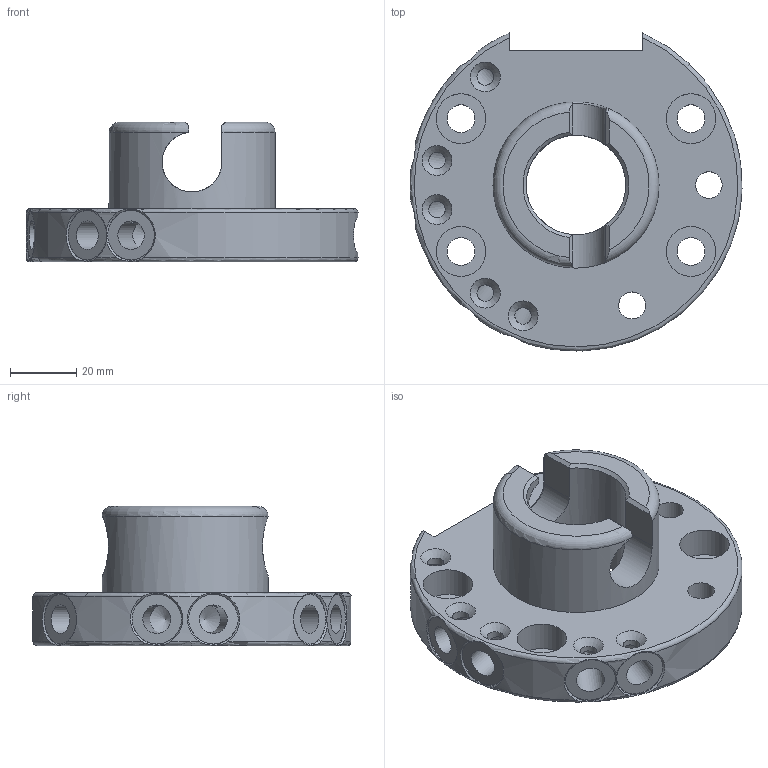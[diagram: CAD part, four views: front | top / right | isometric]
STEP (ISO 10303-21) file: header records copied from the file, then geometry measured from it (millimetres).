
FILE_DESCRIPTION(/* description */ (''),/* implementation_level */ '2;1');
FILE_NAME(/* name */ 'G-HWS100-U-A080_Rev.1.01.stp',/* time_stamp */ '2025-03-18T14:56:48+01:00',/* author */ ('ysplieth'),/* organization */ (''),/* preprocessor_version */ 'ST-DEVELOPER v20',/* originating_system */ 'Autodesk Inventor 2024',/* authorisation */ '');
FILE_SCHEMA (('AUTOMOTIVE_DESIGN { 1 0 10303 214 3 1 1 }'));
Length unit declared in the file: millimetre
Products named in the file (1): Bauteil1
Bounding box: 99.99 x 95.78 x 42 mm (x, y, z)
Volume: 112344.1 mm3; surface area: 30871.3 mm2
Topology: 1 solids, 1 shells, 315 faces, 826 edges, 539 vertices
Faces by surface type: bspline 134, plane 114, cylinder 45, cone 18, torus 4
Full cylindrical faces by diameter (mm): 2.459 x2, 5 x5, 8 x1, 8.1 x1, 8.376 x4, 8.566 x5, 15 x4, 30 x1, 50 x2
Entity records: 12603 total; most frequent: CARTESIAN_POINT 5570, ORIENTED_EDGE 1638, DIRECTION 949, EDGE_CURVE 819, VERTEX_POINT 539, LINE 405, VECTOR 405, EDGE_LOOP 372
